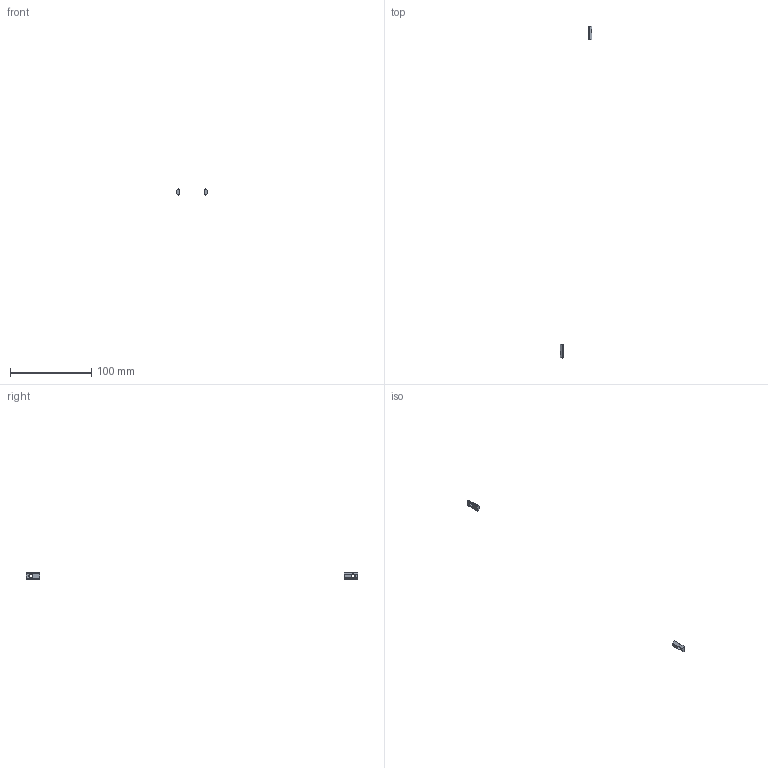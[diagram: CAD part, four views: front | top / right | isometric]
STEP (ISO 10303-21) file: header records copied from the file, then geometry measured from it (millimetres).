
FILE_DESCRIPTION(/* description */ (''),/* implementation_level */ '2;1');
FILE_NAME(/* name */ '4.frame-door#4.6#HNTPZ5-5',/* time_stamp */ '2014-12-01T20:12:53+01:00',/* author */ (''),/* organization */ (''),/* preprocessor_version */ 'ST-DEVELOPER v14',/* originating_system */ '',/* authorisation */ '');
FILE_SCHEMA (('AUTOMOTIVE_DESIGN'));
Length unit declared in the file: millimetre
Products named in the file (1): Document
Bounding box: 38.4 x 408 x 8.3 mm (x, y, z)
Volume: 630 mm3; surface area: 839 mm2
Topology: 2 solids, 2 shells, 26 faces, 72 edges, 48 vertices
Faces by surface type: plane 22, bspline 4
Entity records: 1923 total; most frequent: CARTESIAN_POINT 913, B_SPLINE_CURVE_WITH_KNOTS 200, ORIENTED_EDGE 144, PCURVE 144, DEFINITIONAL_REPRESENTATION 144, SURFACE_CURVE 72, EDGE_CURVE 72, VERTEX_POINT 48
